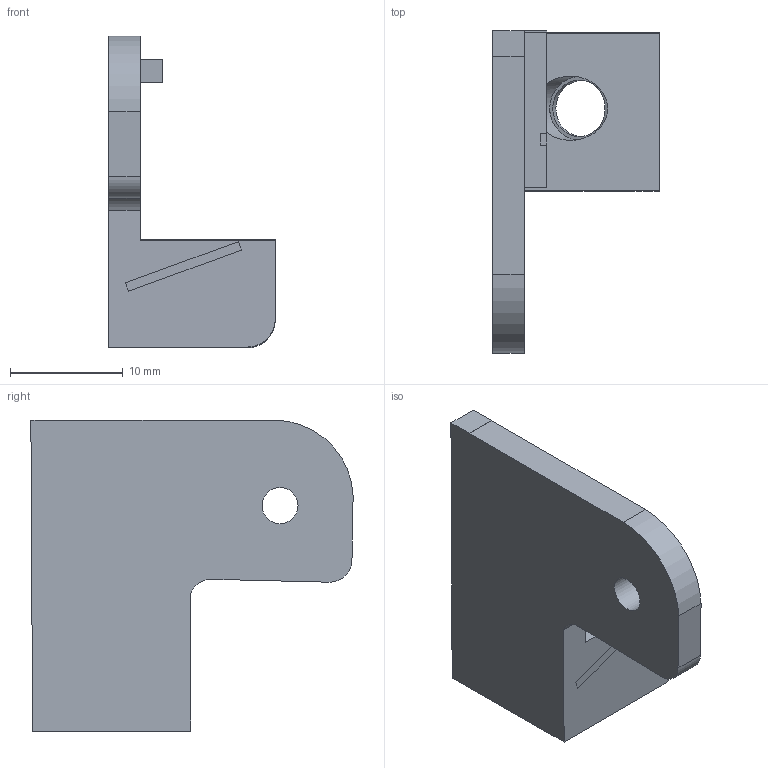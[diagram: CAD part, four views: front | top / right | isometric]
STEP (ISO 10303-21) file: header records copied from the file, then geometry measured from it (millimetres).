
FILE_DESCRIPTION(/* description */ (''),/* implementation_level */ '2;1');
FILE_NAME(/* name */ 'D:/Down/Druck/LED-MountV42.step',/* time_stamp */ '2022-02-09T16:31:51+07:00',/* author */ (''),/* organization */ (''),/* preprocessor_version */ 'ST-DEVELOPER v18.1',/* originating_system */ 'Autodesk Translation Framework v10.13.0.1454',/* authorisation */ '');
FILE_SCHEMA (('AUTOMOTIVE_DESIGN { 1 0 10303 214 3 1 1 }'));
Length unit declared in the file: millimetre
Products named in the file (2): LED-Mount (1); SMD-Mount
Assembly tree (1 placements, depth 2):
  LED-Mount (1)
    SMD-Mount
Bounding box: 14.8 x 28.63 x 27.71 mm (x, y, z)
Volume: 2219.6 mm3; surface area: 2337.8 mm2
Topology: 1 solids, 1 shells, 66 faces, 185 edges, 123 vertices
Faces by surface type: plane 49, cylinder 17
Full cylindrical faces by diameter (mm): 3.2 x1, 5 x1, 5.7 x1
Entity records: 2238 total; most frequent: CARTESIAN_POINT 425, ORIENTED_EDGE 370, DIRECTION 365, EDGE_CURVE 185, LINE 141, VECTOR 141, VERTEX_POINT 123, AXIS2_PLACEMENT_3D 112
